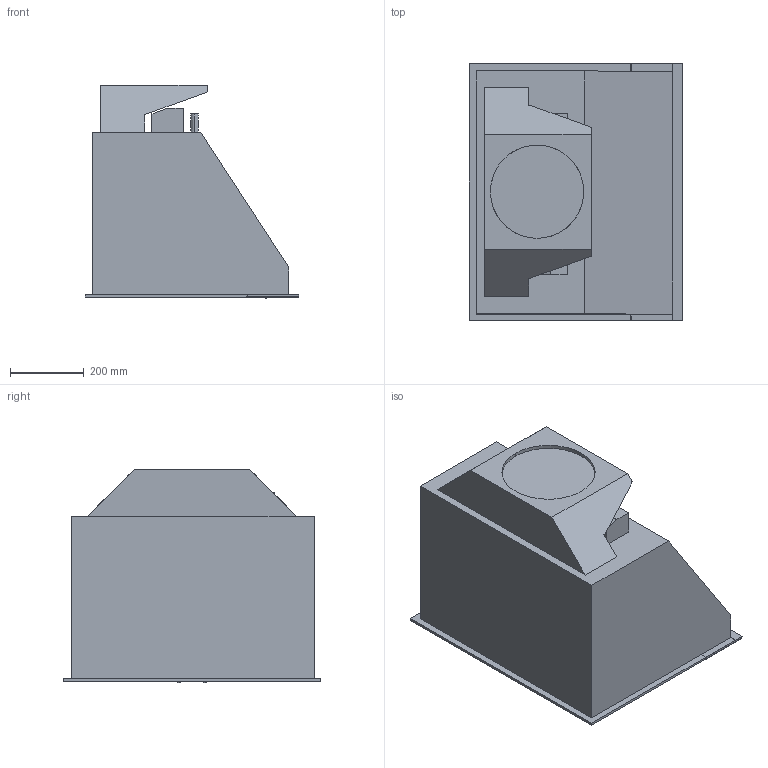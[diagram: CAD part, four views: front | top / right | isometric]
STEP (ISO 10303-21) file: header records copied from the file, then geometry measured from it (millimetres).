
FILE_DESCRIPTION(/* description */ (''),/* implementation_level */ '2;1');
FILE_NAME(/* name */ 'DAR_1120',/* time_stamp */ '2013-10-25T13:17:01+02:00',/* author */ (''),/* organization */ (''),/* preprocessor_version */ 'ST-DEVELOPER v10',/* originating_system */ '',/* authorisation */ '');
FILE_SCHEMA (('AUTOMOTIVE_DESIGN_CC2'));
Length unit declared in the file: millimetre
Products named in the file (1): 1
Bounding box: 577.96 x 698 x 579.6 mm (x, y, z)
Volume: 56821328.9 mm3; surface area: 4108952.7 mm2
Topology: 19 solids, 19 shells, 398 faces, 891 edges, 434 vertices
Faces by surface type: bspline 398
Entity records: 13506 total; most frequent: CARTESIAN_POINT 8904, ORIENTED_EDGE 1582, EDGE_CURVE 791, VERTEX_POINT 434, EDGE_LOOP 403, ADVANCED_FACE 398, FACE_OUTER_BOUND 398, B_SPLINE_CURVE_WITH_KNOTS 225
